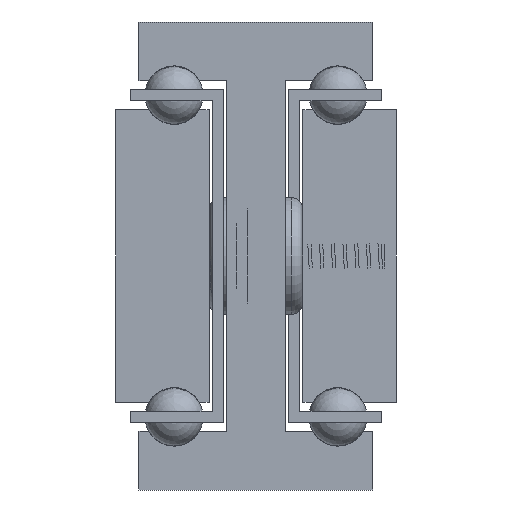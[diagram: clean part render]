
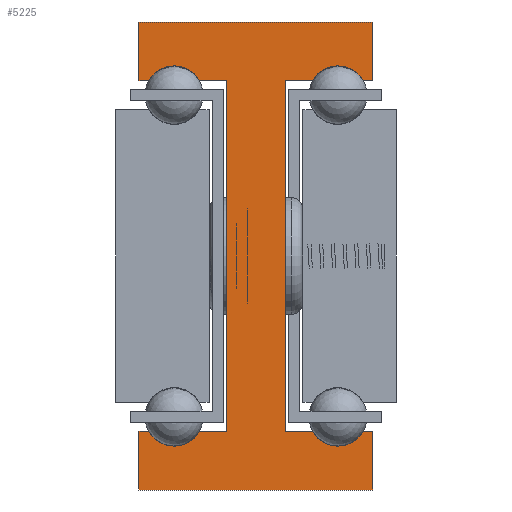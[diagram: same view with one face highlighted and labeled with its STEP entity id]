
A CAD part, front view. The second image highlights one B-rep face of the part: STEP entity #5225.
In plain terms, the highlighted planar face has unit normal (0, -1, 0).
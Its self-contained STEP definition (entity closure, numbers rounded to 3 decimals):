
#335=CIRCLE('',#5583,2.5);
#337=CIRCLE('',#5589,2.5);
#339=CIRCLE('',#5597,2.5);
#341=CIRCLE('',#5603,2.5);
#561=FACE_OUTER_BOUND('',#881,.T.);
#881=EDGE_LOOP('',(#3702,#3703,#3704,#3705,#3706,#3707,#3708,#3709,#3710,
#3711,#3712,#3713,#3714,#3715,#3716,#3717,#3718,#3719,#3720,#3721));
#1326=LINE('',#7512,#1852);
#1329=LINE('',#7518,#1855);
#1332=LINE('',#7524,#1858);
#1336=LINE('',#7536,#1862);
#1339=LINE('',#7542,#1865);
#1342=LINE('',#7548,#1868);
#1346=LINE('',#7560,#1872);
#1349=LINE('',#7566,#1875);
#1352=LINE('',#7572,#1878);
#1355=LINE('',#7578,#1881);
#1358=LINE('',#7584,#1884);
#1362=LINE('',#7596,#1888);
#1365=LINE('',#7602,#1891);
#1368=LINE('',#7608,#1894);
#1372=LINE('',#7620,#1898);
#1375=LINE('',#7624,#1901);
#1852=VECTOR('',#6050,1.);
#1855=VECTOR('',#6055,1.);
#1858=VECTOR('',#6060,1.);
#1862=VECTOR('',#6072,1.);
#1865=VECTOR('',#6077,1.);
#1868=VECTOR('',#6082,1.);
#1872=VECTOR('',#6094,1.);
#1875=VECTOR('',#6099,1.);
#1878=VECTOR('',#6104,1.);
#1881=VECTOR('',#6109,1.);
#1884=VECTOR('',#6114,1.);
#1888=VECTOR('',#6126,1.);
#1891=VECTOR('',#6131,1.);
#1894=VECTOR('',#6136,1.);
#1898=VECTOR('',#6148,1.);
#1901=VECTOR('',#6153,1.);
#2378=VERTEX_POINT('',#7509);
#2379=VERTEX_POINT('',#7511);
#2381=VERTEX_POINT('',#7517);
#2383=VERTEX_POINT('',#7523);
#2385=VERTEX_POINT('',#7529);
#2387=VERTEX_POINT('',#7535);
#2389=VERTEX_POINT('',#7541);
#2391=VERTEX_POINT('',#7547);
#2393=VERTEX_POINT('',#7553);
#2395=VERTEX_POINT('',#7559);
#2397=VERTEX_POINT('',#7565);
#2399=VERTEX_POINT('',#7571);
#2401=VERTEX_POINT('',#7577);
#2403=VERTEX_POINT('',#7583);
#2405=VERTEX_POINT('',#7589);
#2407=VERTEX_POINT('',#7595);
#2409=VERTEX_POINT('',#7601);
#2411=VERTEX_POINT('',#7607);
#2413=VERTEX_POINT('',#7613);
#2415=VERTEX_POINT('',#7619);
#2912=EDGE_CURVE('',#2379,#2378,#1326,.T.);
#2915=EDGE_CURVE('',#2381,#2379,#1329,.T.);
#2918=EDGE_CURVE('',#2383,#2381,#1332,.T.);
#2921=EDGE_CURVE('',#2385,#2383,#335,.T.);
#2924=EDGE_CURVE('',#2387,#2385,#1336,.T.);
#2927=EDGE_CURVE('',#2389,#2387,#1339,.T.);
#2930=EDGE_CURVE('',#2391,#2389,#1342,.T.);
#2933=EDGE_CURVE('',#2393,#2391,#337,.T.);
#2936=EDGE_CURVE('',#2395,#2393,#1346,.T.);
#2939=EDGE_CURVE('',#2397,#2395,#1349,.T.);
#2942=EDGE_CURVE('',#2399,#2397,#1352,.T.);
#2945=EDGE_CURVE('',#2401,#2399,#1355,.T.);
#2948=EDGE_CURVE('',#2403,#2401,#1358,.T.);
#2951=EDGE_CURVE('',#2405,#2403,#339,.T.);
#2954=EDGE_CURVE('',#2407,#2405,#1362,.T.);
#2957=EDGE_CURVE('',#2409,#2407,#1365,.T.);
#2960=EDGE_CURVE('',#2411,#2409,#1368,.T.);
#2963=EDGE_CURVE('',#2413,#2411,#341,.T.);
#2966=EDGE_CURVE('',#2415,#2413,#1372,.T.);
#2969=EDGE_CURVE('',#2378,#2415,#1375,.T.);
#3702=ORIENTED_EDGE('',*,*,#2969,.T.);
#3703=ORIENTED_EDGE('',*,*,#2966,.T.);
#3704=ORIENTED_EDGE('',*,*,#2963,.T.);
#3705=ORIENTED_EDGE('',*,*,#2960,.T.);
#3706=ORIENTED_EDGE('',*,*,#2957,.T.);
#3707=ORIENTED_EDGE('',*,*,#2954,.T.);
#3708=ORIENTED_EDGE('',*,*,#2951,.T.);
#3709=ORIENTED_EDGE('',*,*,#2948,.T.);
#3710=ORIENTED_EDGE('',*,*,#2945,.T.);
#3711=ORIENTED_EDGE('',*,*,#2942,.T.);
#3712=ORIENTED_EDGE('',*,*,#2939,.T.);
#3713=ORIENTED_EDGE('',*,*,#2936,.T.);
#3714=ORIENTED_EDGE('',*,*,#2933,.T.);
#3715=ORIENTED_EDGE('',*,*,#2930,.T.);
#3716=ORIENTED_EDGE('',*,*,#2927,.T.);
#3717=ORIENTED_EDGE('',*,*,#2924,.T.);
#3718=ORIENTED_EDGE('',*,*,#2921,.T.);
#3719=ORIENTED_EDGE('',*,*,#2918,.T.);
#3720=ORIENTED_EDGE('',*,*,#2915,.T.);
#3721=ORIENTED_EDGE('',*,*,#2912,.T.);
#5003=PLANE('',#5607);
#5225=ADVANCED_FACE('',(#561),#5003,.T.);
#5583=AXIS2_PLACEMENT_3D('',#7530,#6066,#6067);
#5589=AXIS2_PLACEMENT_3D('',#7554,#6088,#6089);
#5597=AXIS2_PLACEMENT_3D('',#7590,#6120,#6121);
#5603=AXIS2_PLACEMENT_3D('',#7614,#6142,#6143);
#5607=AXIS2_PLACEMENT_3D('',#7626,#6156,#6157);
#6050=DIRECTION('',(-1.,0.,0.));
#6055=DIRECTION('',(0.,0.,1.));
#6060=DIRECTION('',(1.,0.,0.));
#6066=DIRECTION('center_axis',(0.,1.,0.));
#6067=DIRECTION('ref_axis',(0.866,0.,0.5));
#6072=DIRECTION('',(1.,0.,0.));
#6077=DIRECTION('',(0.,0.,1.));
#6082=DIRECTION('',(-1.,0.,0.));
#6088=DIRECTION('center_axis',(0.,1.,0.));
#6089=DIRECTION('ref_axis',(-0.866,0.,-0.5));
#6094=DIRECTION('',(-1.,0.,0.));
#6099=DIRECTION('',(0.,0.,1.));
#6104=DIRECTION('',(1.,0.,0.));
#6109=DIRECTION('',(0.,0.,-1.));
#6114=DIRECTION('',(-1.,0.,0.));
#6120=DIRECTION('center_axis',(0.,1.,0.));
#6121=DIRECTION('ref_axis',(-0.866,0.,-0.5));
#6126=DIRECTION('',(-1.,0.,0.));
#6131=DIRECTION('',(0.,0.,-1.));
#6136=DIRECTION('',(1.,0.,0.));
#6142=DIRECTION('center_axis',(0.,1.,0.));
#6143=DIRECTION('ref_axis',(0.866,0.,0.5));
#6148=DIRECTION('',(1.,0.,0.));
#6153=DIRECTION('',(0.,0.,-1.));
#6156=DIRECTION('center_axis',(0.,-1.,0.));
#6157=DIRECTION('ref_axis',(1.,0.,0.));
#7509=CARTESIAN_POINT('',(3631.921,1157.483,295.));
#7511=CARTESIAN_POINT('',(3651.921,1157.483,295.));
#7512=CARTESIAN_POINT('',(3631.921,1157.483,295.));
#7517=CARTESIAN_POINT('',(3651.921,1157.483,290.));
#7518=CARTESIAN_POINT('',(3651.921,1157.483,295.));
#7523=CARTESIAN_POINT('',(3651.086,1157.483,290.));
#7524=CARTESIAN_POINT('',(3651.921,1157.483,290.));
#7529=CARTESIAN_POINT('',(3646.756,1157.483,290.));
#7530=CARTESIAN_POINT('Origin',(3648.921,1157.483,288.75));
#7535=CARTESIAN_POINT('',(3644.421,1157.483,290.));
#7536=CARTESIAN_POINT('',(3646.756,1157.483,290.));
#7541=CARTESIAN_POINT('',(3644.421,1157.483,260.));
#7542=CARTESIAN_POINT('',(3644.421,1157.483,290.));
#7547=CARTESIAN_POINT('',(3646.756,1157.483,260.));
#7548=CARTESIAN_POINT('',(3644.421,1157.483,260.));
#7553=CARTESIAN_POINT('',(3651.086,1157.483,260.));
#7554=CARTESIAN_POINT('Origin',(3648.921,1157.483,261.25));
#7559=CARTESIAN_POINT('',(3651.921,1157.483,260.));
#7560=CARTESIAN_POINT('',(3651.086,1157.483,260.));
#7565=CARTESIAN_POINT('',(3651.921,1157.483,255.));
#7566=CARTESIAN_POINT('',(3651.921,1157.483,260.));
#7571=CARTESIAN_POINT('',(3631.921,1157.483,255.));
#7572=CARTESIAN_POINT('',(3651.921,1157.483,255.));
#7577=CARTESIAN_POINT('',(3631.921,1157.483,260.));
#7578=CARTESIAN_POINT('',(3631.921,1157.483,255.));
#7583=CARTESIAN_POINT('',(3632.756,1157.483,260.));
#7584=CARTESIAN_POINT('',(3631.921,1157.483,260.));
#7589=CARTESIAN_POINT('',(3637.086,1157.483,260.));
#7590=CARTESIAN_POINT('Origin',(3634.921,1157.483,261.25));
#7595=CARTESIAN_POINT('',(3639.421,1157.483,260.));
#7596=CARTESIAN_POINT('',(3637.086,1157.483,260.));
#7601=CARTESIAN_POINT('',(3639.421,1157.483,290.));
#7602=CARTESIAN_POINT('',(3639.421,1157.483,260.));
#7607=CARTESIAN_POINT('',(3637.086,1157.483,290.));
#7608=CARTESIAN_POINT('',(3639.421,1157.483,290.));
#7613=CARTESIAN_POINT('',(3632.756,1157.483,290.));
#7614=CARTESIAN_POINT('Origin',(3634.921,1157.483,288.75));
#7619=CARTESIAN_POINT('',(3631.921,1157.483,290.));
#7620=CARTESIAN_POINT('',(3632.756,1157.483,290.));
#7624=CARTESIAN_POINT('',(3631.921,1157.483,290.));
#7626=CARTESIAN_POINT('Origin',(3641.921,1157.483,275.));
